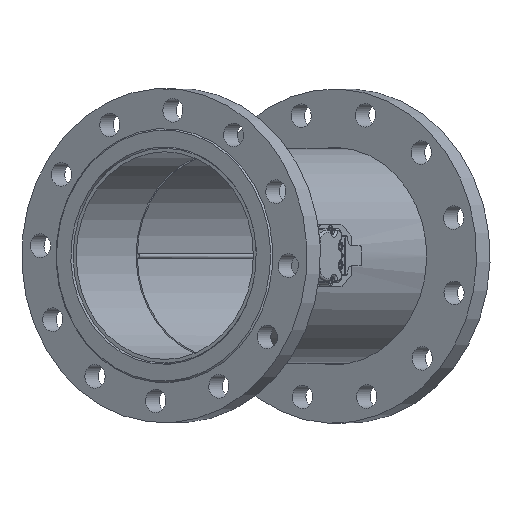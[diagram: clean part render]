
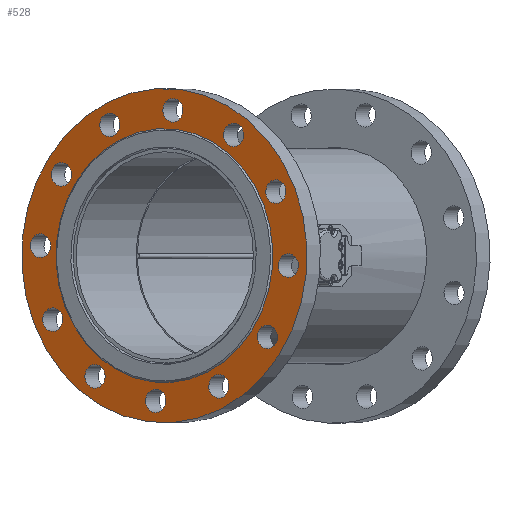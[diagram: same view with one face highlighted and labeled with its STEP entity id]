
A CAD part, top view. The second image highlights one B-rep face of the part: STEP entity #528.
In plain terms, the highlighted planar face has unit normal (-0.522, 0, 0.853) as drawn and (0, 0, 1) by its records, which use the part's own axes.
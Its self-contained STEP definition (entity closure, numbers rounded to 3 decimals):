
#528 = ADVANCED_FACE( '', ( #1189, #1190, #1191, #1192, #1193, #1194, #1195, #1196, #1197, #1198, #1199, #1200, #1201, #1202 ), #1203, .T. );
#1189 = FACE_BOUND( '', #2388, .T. );
#1190 = FACE_BOUND( '', #2389, .T. );
#1191 = FACE_BOUND( '', #2390, .T. );
#1192 = FACE_BOUND( '', #2391, .T. );
#1193 = FACE_BOUND( '', #2392, .T. );
#1194 = FACE_BOUND( '', #2393, .T. );
#1195 = FACE_BOUND( '', #2394, .T. );
#1196 = FACE_BOUND( '', #2395, .T. );
#1197 = FACE_BOUND( '', #2396, .T. );
#1198 = FACE_BOUND( '', #2397, .T. );
#1199 = FACE_BOUND( '', #2398, .T. );
#1200 = FACE_BOUND( '', #2399, .T. );
#1201 = FACE_OUTER_BOUND( '', #2400, .T. );
#1202 = FACE_BOUND( '', #2401, .T. );
#1203 = PLANE( '', #2402 );
#2388 = EDGE_LOOP( '', ( #6339 ) );
#2389 = EDGE_LOOP( '', ( #6340 ) );
#2390 = EDGE_LOOP( '', ( #6341 ) );
#2391 = EDGE_LOOP( '', ( #6342 ) );
#2392 = EDGE_LOOP( '', ( #6343 ) );
#2393 = EDGE_LOOP( '', ( #6344 ) );
#2394 = EDGE_LOOP( '', ( #6345 ) );
#2395 = EDGE_LOOP( '', ( #6346 ) );
#2396 = EDGE_LOOP( '', ( #6347 ) );
#2397 = EDGE_LOOP( '', ( #6348 ) );
#2398 = EDGE_LOOP( '', ( #6349 ) );
#2399 = EDGE_LOOP( '', ( #6350 ) );
#2400 = EDGE_LOOP( '', ( #6351 ) );
#2401 = EDGE_LOOP( '', ( #6352 ) );
#2402 = AXIS2_PLACEMENT_3D( '', #6353, #6354, #6355 );
#6339 = ORIENTED_EDGE( '', *, *, #8328, .T. );
#6340 = ORIENTED_EDGE( '', *, *, #8329, .T. );
#6341 = ORIENTED_EDGE( '', *, *, #8330, .T. );
#6342 = ORIENTED_EDGE( '', *, *, #8331, .T. );
#6343 = ORIENTED_EDGE( '', *, *, #8332, .T. );
#6344 = ORIENTED_EDGE( '', *, *, #8333, .T. );
#6345 = ORIENTED_EDGE( '', *, *, #8334, .T. );
#6346 = ORIENTED_EDGE( '', *, *, #8335, .T. );
#6347 = ORIENTED_EDGE( '', *, *, #8336, .T. );
#6348 = ORIENTED_EDGE( '', *, *, #8139, .T. );
#6349 = ORIENTED_EDGE( '', *, *, #8337, .T. );
#6350 = ORIENTED_EDGE( '', *, *, #8338, .T. );
#6351 = ORIENTED_EDGE( '', *, *, #8300, .T. );
#6352 = ORIENTED_EDGE( '', *, *, #8339, .F. );
#6353 = CARTESIAN_POINT( '', ( 212.5, 0., 33. ) );
#6354 = DIRECTION( '', ( 0., 0., 1. ) );
#6355 = DIRECTION( '', ( 1., 0., 0. ) );
#8139 = EDGE_CURVE( '', #9014, #9014, #9015, .T. );
#8300 = EDGE_CURVE( '', #9297, #9297, #9298, .T. );
#8328 = EDGE_CURVE( '', #9342, #9342, #9343, .T. );
#8329 = EDGE_CURVE( '', #9344, #9344, #9345, .T. );
#8330 = EDGE_CURVE( '', #9346, #9346, #9347, .T. );
#8331 = EDGE_CURVE( '', #9348, #9348, #9349, .T. );
#8332 = EDGE_CURVE( '', #9350, #9350, #9351, .T. );
#8333 = EDGE_CURVE( '', #9352, #9352, #9353, .T. );
#8334 = EDGE_CURVE( '', #9354, #9354, #9355, .T. );
#8335 = EDGE_CURVE( '', #9356, #9356, #9357, .T. );
#8336 = EDGE_CURVE( '', #9358, #9358, #9359, .T. );
#8337 = EDGE_CURVE( '', #9360, #9360, #9361, .T. );
#8338 = EDGE_CURVE( '', #9362, #9362, #9363, .T. );
#8339 = EDGE_CURVE( '', #9364, #9364, #9365, .T. );
#9014 = VERTEX_POINT( '', #10270 );
#9015 = CIRCLE( '', #10271, 15. );
#9297 = VERTEX_POINT( '', #10673 );
#9298 = CIRCLE( '', #10674, 212.5 );
#9342 = VERTEX_POINT( '', #10882 );
#9343 = CIRCLE( '', #10883, 15. );
#9344 = VERTEX_POINT( '', #10884 );
#9345 = CIRCLE( '', #10885, 15. );
#9346 = VERTEX_POINT( '', #10886 );
#9347 = CIRCLE( '', #10887, 15. );
#9348 = VERTEX_POINT( '', #10888 );
#9349 = CIRCLE( '', #10889, 15. );
#9350 = VERTEX_POINT( '', #10890 );
#9351 = CIRCLE( '', #10891, 15. );
#9352 = VERTEX_POINT( '', #10892 );
#9353 = CIRCLE( '', #10893, 15. );
#9354 = VERTEX_POINT( '', #10894 );
#9355 = CIRCLE( '', #10895, 15. );
#9356 = VERTEX_POINT( '', #10896 );
#9357 = CIRCLE( '', #10897, 15. );
#9358 = VERTEX_POINT( '', #10898 );
#9359 = CIRCLE( '', #10899, 15. );
#9360 = VERTEX_POINT( '', #10900 );
#9361 = CIRCLE( '', #10901, 15. );
#9362 = VERTEX_POINT( '', #10902 );
#9363 = CIRCLE( '', #10903, 15. );
#9364 = VERTEX_POINT( '', #10904 );
#9365 = CIRCLE( '', #10905, 161.5 );
#10270 = CARTESIAN_POINT( '', ( 112.621, 131.77, 33. ) );
#10271 = AXIS2_PLACEMENT_3D( '', #12914, #12915, #12916 );
#10673 = CARTESIAN_POINT( '', ( 212.5, 0., 33. ) );
#10674 = AXIS2_PLACEMENT_3D( '', #13209, #13210, #13211 );
#10882 = CARTESIAN_POINT( '', ( -146.77, 97.621, 33. ) );
#10883 = AXIS2_PLACEMENT_3D( '', #13249, #13250, #13251 );
#10884 = CARTESIAN_POINT( '', ( -183.417, 9.147, 33. ) );
#10885 = AXIS2_PLACEMENT_3D( '', #13252, #13253, #13254 );
#10886 = CARTESIAN_POINT( '', ( -170.918, -85.796, 33. ) );
#10887 = AXIS2_PLACEMENT_3D( '', #13255, #13256, #13257 );
#10888 = CARTESIAN_POINT( '', ( -112.621, -161.77, 33. ) );
#10889 = AXIS2_PLACEMENT_3D( '', #13258, #13259, #13260 );
#10890 = CARTESIAN_POINT( '', ( -24.147, -198.417, 33. ) );
#10891 = AXIS2_PLACEMENT_3D( '', #13261, #13262, #13263 );
#10892 = CARTESIAN_POINT( '', ( 70.796, -185.918, 33. ) );
#10893 = AXIS2_PLACEMENT_3D( '', #13264, #13265, #13266 );
#10894 = CARTESIAN_POINT( '', ( 146.77, -127.621, 33. ) );
#10895 = AXIS2_PLACEMENT_3D( '', #13267, #13268, #13269 );
#10896 = CARTESIAN_POINT( '', ( 183.417, -39.147, 33. ) );
#10897 = AXIS2_PLACEMENT_3D( '', #13270, #13271, #13272 );
#10898 = CARTESIAN_POINT( '', ( 170.918, 55.796, 33. ) );
#10899 = AXIS2_PLACEMENT_3D( '', #13273, #13274, #13275 );
#10900 = CARTESIAN_POINT( '', ( 24.147, 168.417, 33. ) );
#10901 = AXIS2_PLACEMENT_3D( '', #13276, #13277, #13278 );
#10902 = CARTESIAN_POINT( '', ( -70.796, 155.918, 33. ) );
#10903 = AXIS2_PLACEMENT_3D( '', #13279, #13280, #13281 );
#10904 = CARTESIAN_POINT( '', ( 161.5, 0., 33. ) );
#10905 = AXIS2_PLACEMENT_3D( '', #13282, #13283, #13284 );
#12914 = CARTESIAN_POINT( '', ( 112.621, 146.77, 33. ) );
#12915 = DIRECTION( '', ( 0., 0., -1. ) );
#12916 = DIRECTION( '', ( 0., -1., 0. ) );
#13209 = CARTESIAN_POINT( '', ( 0., 0., 33. ) );
#13210 = DIRECTION( '', ( 0., 0., 1. ) );
#13211 = DIRECTION( '', ( 1., 0., 0. ) );
#13249 = CARTESIAN_POINT( '', ( -146.77, 112.621, 33. ) );
#13250 = DIRECTION( '', ( 0., 0., -1. ) );
#13251 = DIRECTION( '', ( 0., -1., 0. ) );
#13252 = CARTESIAN_POINT( '', ( -183.417, 24.147, 33. ) );
#13253 = DIRECTION( '', ( 0., 0., -1. ) );
#13254 = DIRECTION( '', ( 0., -1., 0. ) );
#13255 = CARTESIAN_POINT( '', ( -170.918, -70.796, 33. ) );
#13256 = DIRECTION( '', ( 0., 0., -1. ) );
#13257 = DIRECTION( '', ( 0., -1., 0. ) );
#13258 = CARTESIAN_POINT( '', ( -112.621, -146.77, 33. ) );
#13259 = DIRECTION( '', ( 0., 0., -1. ) );
#13260 = DIRECTION( '', ( 0., -1., 0. ) );
#13261 = CARTESIAN_POINT( '', ( -24.147, -183.417, 33. ) );
#13262 = DIRECTION( '', ( 0., 0., -1. ) );
#13263 = DIRECTION( '', ( 0., -1., 0. ) );
#13264 = CARTESIAN_POINT( '', ( 70.796, -170.918, 33. ) );
#13265 = DIRECTION( '', ( 0., 0., -1. ) );
#13266 = DIRECTION( '', ( 0., -1., 0. ) );
#13267 = CARTESIAN_POINT( '', ( 146.77, -112.621, 33. ) );
#13268 = DIRECTION( '', ( 0., 0., -1. ) );
#13269 = DIRECTION( '', ( 0., -1., 0. ) );
#13270 = CARTESIAN_POINT( '', ( 183.417, -24.147, 33. ) );
#13271 = DIRECTION( '', ( 0., 0., -1. ) );
#13272 = DIRECTION( '', ( 0., -1., 0. ) );
#13273 = CARTESIAN_POINT( '', ( 170.918, 70.796, 33. ) );
#13274 = DIRECTION( '', ( 0., 0., -1. ) );
#13275 = DIRECTION( '', ( 0., -1., 0. ) );
#13276 = CARTESIAN_POINT( '', ( 24.147, 183.417, 33. ) );
#13277 = DIRECTION( '', ( 0., 0., -1. ) );
#13278 = DIRECTION( '', ( 0., -1., 0. ) );
#13279 = CARTESIAN_POINT( '', ( -70.796, 170.918, 33. ) );
#13280 = DIRECTION( '', ( 0., 0., -1. ) );
#13281 = DIRECTION( '', ( 0., -1., 0. ) );
#13282 = CARTESIAN_POINT( '', ( 0., 0., 33. ) );
#13283 = DIRECTION( '', ( 0., 0., 1. ) );
#13284 = DIRECTION( '', ( 1., 0., 0. ) );
